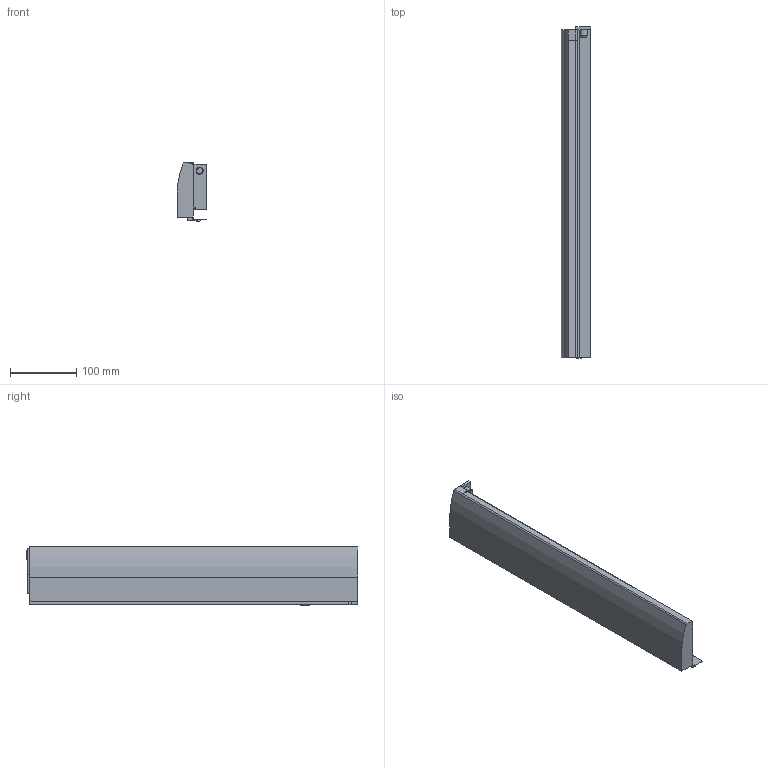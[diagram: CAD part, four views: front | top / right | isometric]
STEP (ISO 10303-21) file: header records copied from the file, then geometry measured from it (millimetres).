
FILE_DESCRIPTION (( 'STEP AP214' ), '1' );
FILE_NAME ('_IMOS_NOVA-Pro_Dekor-H90_DL_NL500_LI.step', '2010-07-06T09:14:43', ( 'grass' ), ( '' ), 'SwSTEP 2.0', 'SolidWorks 2009', '' );
FILE_SCHEMA (( 'AUTOMOTIVE_DESIGN' ));
Length unit declared in the file: millimetre
Products named in the file (1): _IMOS_NOVA-Pro_Dekor-H90_DL_NL500_LI
Bounding box: 44.3 x 502.7 x 90.49 mm (x, y, z)
Volume: 545471 mm3; surface area: 172247.4 mm2
Topology: 1 solids, 1 shells, 69 faces, 182 edges, 120 vertices
Faces by surface type: plane 47, cylinder 17, cone 4, bspline 1
Entity records: 2168 total; most frequent: CARTESIAN_POINT 393, ORIENTED_EDGE 364, DIRECTION 357, EDGE_CURVE 182, VECTOR 141, LINE 141, VERTEX_POINT 120, AXIS2_PLACEMENT_3D 108
